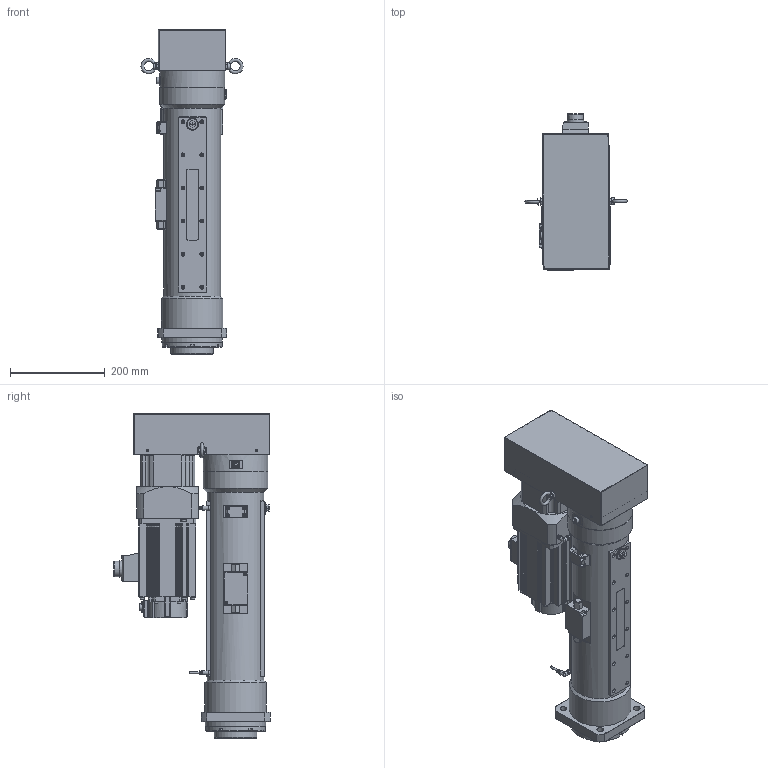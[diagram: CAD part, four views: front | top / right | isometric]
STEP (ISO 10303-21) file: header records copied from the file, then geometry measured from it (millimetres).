
FILE_DESCRIPTION(/* description */ (''),/* implementation_level */ '2;1');
FILE_NAME(/* name */ 'Z:\07.Product\01.Design\3D\1.P-All\OAICS-P\0000.Assembly\OACIS-P050,P060-300-150-A6V200.stp',/* time_stamp */ '2023-03-03T11:00:24+09:00',/* author */ ('magic'),/* organization */ (''),/* preprocessor_version */ 'ST-DEVELOPER v17',/* originating_system */ 'Autodesk Inventor 2019',/* authorisation */ '');
FILE_SCHEMA (('AUTOMOTIVE_DESIGN { 1 0 10303 214 3 1 1 }'));
Products named in the file (1): OACIS-P060-300-150-A6_v10.30
Bounding box: 215.9 x 329.97 x 686 mm (x, y, z)
Volume: 10396907 mm3; surface area: 1259875.5 mm2
Topology: 1 solids, 6 shells, 2369 faces, 6368 edges, 4214 vertices
Faces by surface type: plane 1049, cylinder 820, cone 258, bspline 121, torus 61, sphere 60
Full cylindrical faces by diameter (mm): 1 x6, 3.242 x42, 4.134 x4, 4.5 x38, 4.917 x13, 5 x2, 5.8 x2, 6.647 x20, 6.7 x2, 6.75 x4, 7 x4, 7.2 x2, 7.24 x2, 7.8 x2, 8 x38, 8.5 x8, 9 x24, 9.188 x1, 9.5 x4, 10 x10, 10.106 x8, 10.3 x1, 11 x1, 12 x1, 13 x1, 14 x13, 14.8 x1, 14.95 x1, 25.4 x1, 26 x1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
Entity records: 89914 total; most frequent: CARTESIAN_POINT 27241, DIRECTION 12742, ORIENTED_EDGE 12533, EDGE_CURVE 6274, AXIS2_PLACEMENT_3D 4832, VERTEX_POINT 4214, LINE 3078, VECTOR 3078
